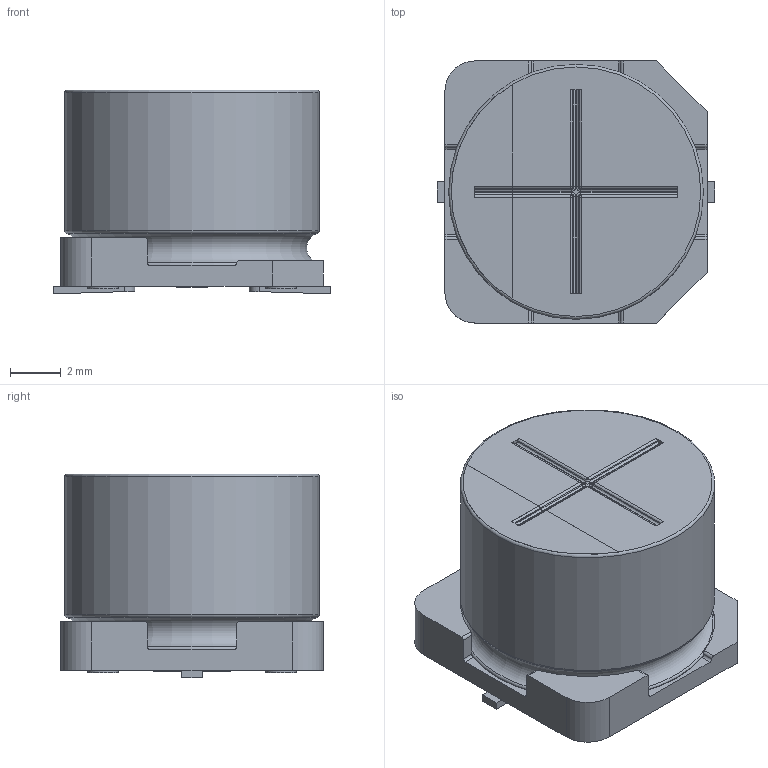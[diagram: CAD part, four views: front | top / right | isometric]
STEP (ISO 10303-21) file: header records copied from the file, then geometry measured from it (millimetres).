
FILE_DESCRIPTION(/* description */ (''),/* implementation_level */ '2;1');
FILE_NAME(/* name */ '10x8_Chip.stp',/* time_stamp */ '2017-09-04T19:16:08+09:00',/* author */ (''),/* organization */ (''),/* preprocessor_version */ 'ST-DEVELOPER v16',/* originating_system */ 'SIEMENS PLM Software NX 11.0',/* authorisation */ '');
FILE_SCHEMA (('AUTOMOTIVE_DESIGN { 1 0 10303 214 3 1 1 1 }'));
Length unit declared in the file: millimetre
Products named in the file (1): 10x8_Chip_0
Bounding box: 10.9 x 10.3 x 8 mm (x, y, z)
Volume: 624.9 mm3; surface area: 692.7 mm2
Topology: 5 solids, 5 shells, 134 faces, 336 edges, 214 vertices
Faces by surface type: plane 61, cylinder 61, torus 4, sphere 4, bspline 4
Full cylindrical faces by diameter (mm): 1.2 x4, 10 x2
Entity records: 4252 total; most frequent: CARTESIAN_POINT 925, DIRECTION 678, ORIENTED_EDGE 638, EDGE_CURVE 319, AXIS2_PLACEMENT_3D 244, VERTEX_POINT 211, LINE 190, VECTOR 190
